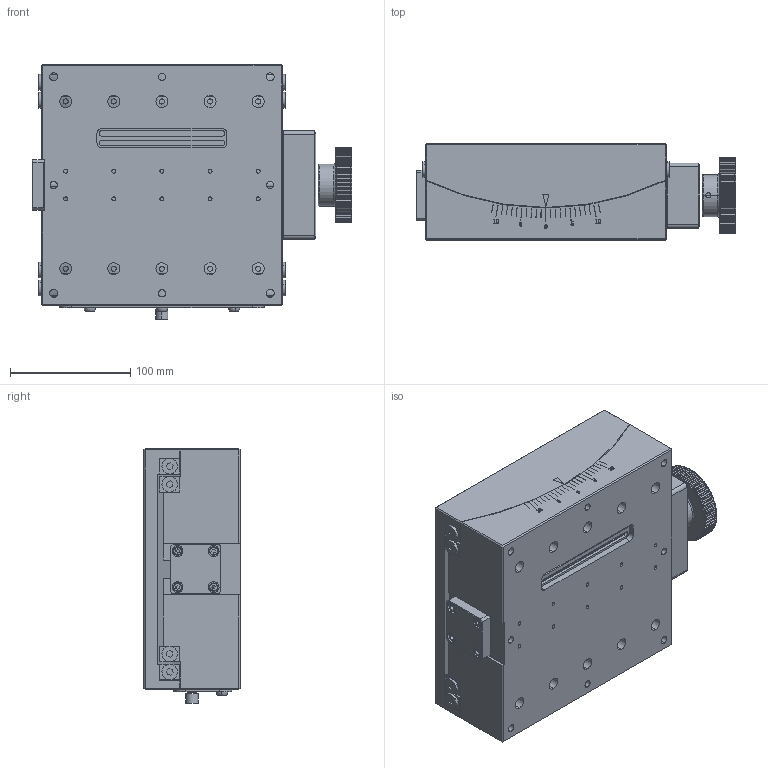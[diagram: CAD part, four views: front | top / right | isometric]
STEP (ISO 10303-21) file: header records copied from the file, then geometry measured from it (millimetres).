
FILE_DESCRIPTION (( 'STEP AP203' ), '1' );
FILE_NAME ('装配体PT200-175（手动）.STEP', '2026-08-17T01:10:50', ( '' ), ( '' ), 'SwSTEP 2.0', 'SolidWorks 2025', '' );
FILE_SCHEMA (( 'CONFIG_CONTROL_DESIGN' ));
Length unit declared in the file: millimetre
Products named in the file (1): 装配体PT200-175（手动）
Bounding box: 266 x 80 x 211.5 mm (x, y, z)
Surface area: 337129.3 mm2 (no closed solid volume)
Topology: 0 solids, 58 shells, 1136 faces, 3772 edges, 2647 vertices
Faces by surface type: plane 496, cylinder 429, torus 144, bspline 33, cone 28, sphere 6
Entity records: 48704 total; most frequent: CARTESIAN_POINT 16496, DIRECTION 6444, ORIENTED_EDGE 6335, EDGE_CURVE 3744, VERTEX_POINT 2641, AXIS2_PLACEMENT_3D 2350, VECTOR 1744, LINE 1744
